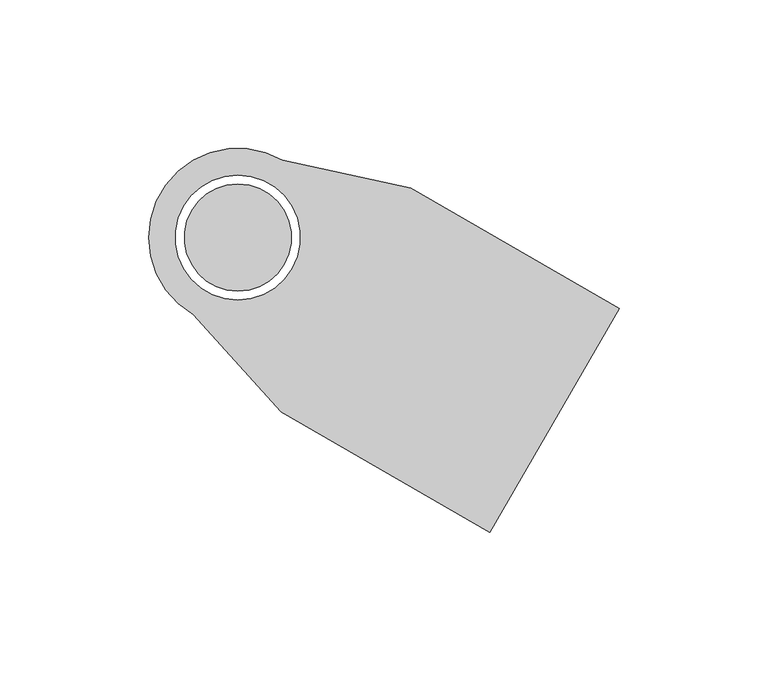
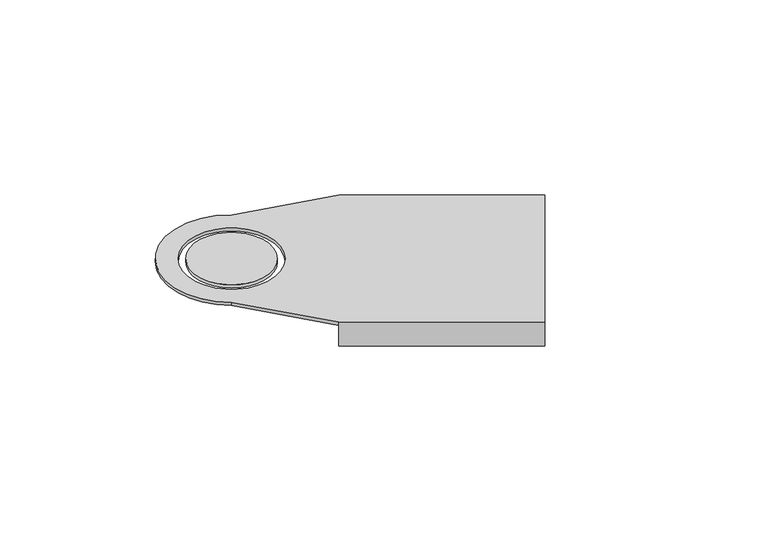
"""IFC4 building model written with IfcOpenShell, lengths in millimetres: cable carrier fitting geometry, BAKS_BEND_Articulated connector_LGP : LGP_H100."""

from ifc_helpers import new_model, si_unit, frame, origin, place, context, project, spatial, polyline, circle_curve, source, transform, mapped, element, save
from ifc_brep_helpers import plane_surface, cylinder_surface, revolved_surface, advanced_brep


def cable_carrier_fitting_3cbe9e62(model_context):
    return source(origin(), model_context, "Body", "AdvancedBrep", [
        advanced_brep(
        [(84.7711247, -99.1721051, 1.5), (128.2711247, -23.8278949, 1.5), (58.123067, 16.6721051, 1.5), (15.0, 25.9807621, 1.5), (-15.0, -25.9807621, 1.5), (14.623067, -58.6721051, 1.5), (-18.1865335, 10.5, 1.5), (18.1865335, -10.5, 1.5), (58.123067, 16.6721051, 0.0), (57.373067, 15.373067, 0.0), (127.5211247, -25.126933, 0.0), (85.5211247, -97.873067, 0.0), (15.373067, -57.373067, 0.0), (14.623067, -58.6721051, 0.0), (-15.0, -25.9807621, 0.0), (15.0, 25.9807621, 0.0), (18.1865335, -10.5, 0.0), (-18.1865335, 10.5, 0.0), (14.623067, -58.6721051, -10.0), (84.7711247, -99.1721051, -10.0), (128.2711247, -23.8278949, -10.0), (58.123067, 16.6721051, -10.0), (85.5211247, -97.873067, -10.0), (127.5211247, -25.126933, -10.0), (57.373067, 15.373067, -10.0), (15.373067, -57.373067, -10.0)],
        [
            (0, 1),
            (1, 2),
            (2, 3),
            (3, 4, circle_curve(frame((0.0, 0.0, 1.5), z_axis=(0.0, 0.0, 1.0), x_axis=(0.8660254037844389, -0.4999999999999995, 0.0)), 30.0)),
            (4, 5),
            (5, 0),
            (6, 7, circle_curve(frame((0.0, 0.0, 1.5), z_axis=(0.0, 0.0, -1.0), x_axis=(0.8660254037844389, -0.4999999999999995, 0.0)), 21.0)),
            (7, 6, circle_curve(frame((0.0, 0.0, 1.5), z_axis=(0.0, 0.0, -1.0), x_axis=(0.8660254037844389, -0.4999999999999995, 0.0)), 21.0)),
            (8, 9),
            (9, 10),
            (10, 11),
            (11, 12),
            (12, 13),
            (13, 14),
            (14, 15, circle_curve(frame((0.0, 0.0, 0.0), z_axis=(0.0, 0.0, -1.0), x_axis=(0.8660254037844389, -0.4999999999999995, 0.0)), 30.0)),
            (15, 8),
            (16, 17, circle_curve(frame((0.0, 0.0, 0.0), z_axis=(0.0, 0.0, 1.0), x_axis=(0.8660254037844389, -0.4999999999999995, 0.0)), 21.0)),
            (17, 16, circle_curve(frame((0.0, 0.0, 0.0), z_axis=(0.0, 0.0, 1.0), x_axis=(0.8660254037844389, -0.4999999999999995, 0.0)), 21.0)),
            (5, 13),
            (13, 18),
            (18, 19),
            (19, 0),
            (1, 20),
            (20, 21),
            (21, 8),
            (8, 2),
            (19, 22),
            (22, 11),
            (10, 23),
            (23, 20),
            (7, 16),
            (17, 6),
            (4, 14),
            (3, 15),
            (23, 24),
            (24, 21),
            (9, 24),
            (18, 25),
            (25, 22),
            (12, 25),
        ],
        [
            plane_surface(frame((14.623067, -58.6721051, 1.5), z_axis=(0.0, 0.0, 1.0), x_axis=(-0.8660254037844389, 0.4999999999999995, 0.0))),
            plane_surface(frame((14.623067, -58.6721051, 0.0), z_axis=(0.0, 0.0, -1.0), x_axis=(0.8660254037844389, -0.4999999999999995, 0.0))),
            plane_surface(frame((84.7711247, -99.1721051, 1.5), z_axis=(-0.4999999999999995, -0.8660254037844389, 0.0), x_axis=(0.0, 0.0, -1.0))),
            plane_surface(frame((58.123067, 16.6721051, 1.5), z_axis=(0.4999999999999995, 0.8660254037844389, 0.0), x_axis=(0.0, 0.0, -1.0))),
            plane_surface(frame((128.2711247, -23.8278949, 1.5), z_axis=(0.8660254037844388, -0.49999999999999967, 0.0), x_axis=(0.0, 0.0, -1.0))),
            revolved_surface(polyline([(18.18653347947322, -10.49999999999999, 1.5), (18.18653347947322, -10.49999999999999, 0.0)]), (0.0, 0.0, 0.0), (0.0, 0.0, 1.0)),
            plane_surface(frame((14.623067, -58.6721051, 1.5), z_axis=(-0.7410260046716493, -0.67147632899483, 0.0), x_axis=(0.0, 0.0, -1.0))),
            cylinder_surface(frame((0.0, 0.0, 0.0), z_axis=(0.0, 0.0, 1.0), x_axis=(0.8660254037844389, -0.4999999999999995, 0.0)), 30.0),
            plane_surface(frame((15.0, 25.9807621, 1.5), z_axis=(0.21100255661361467, 0.9774855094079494, 0.0), x_axis=(0.0, 0.0, -1.0))),
            plane_surface(frame((57.373067, 15.373067, -10.0), z_axis=(0.0, 0.0, -1.0), x_axis=(0.8660254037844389, -0.4999999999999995, 0.0))),
            plane_surface(frame((127.5211247, -25.126933, 0.0), z_axis=(-0.4999999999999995, -0.8660254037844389, 0.0), x_axis=(0.0, 0.0, -1.0))),
            plane_surface(frame((57.373067, 15.373067, 0.0), z_axis=(-0.8660254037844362, 0.5000000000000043, 0.0), x_axis=(0.0, 0.0, -1.0))),
            plane_surface(frame((14.623067, -58.6721051, -10.0), z_axis=(0.0, 0.0, -1.0), x_axis=(0.8660254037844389, -0.4999999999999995, 0.0))),
            plane_surface(frame((14.623067, -58.6721051, 0.0), z_axis=(-0.8660254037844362, 0.5000000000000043, 0.0), x_axis=(0.0, 0.0, -1.0))),
            plane_surface(frame((15.373067, -57.373067, 0.0), z_axis=(0.4999999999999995, 0.8660254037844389, 0.0), x_axis=(0.0, 0.0, -1.0))),
        ],
        [
            (0, [[1, 2, 3, 4, 5, 6], [7, 8]]),
            (1, [[9, 10, 11, 12, 13, 14, 15, 16], [17, 18]]),
            (2, [[19, 20, 21, 22, -6]]),
            (3, [[23, 24, 25, 26, -2]]),
            (4, [[27, 28, -11, 29, 30, -23, -1, -22]]),
            (5, [[-8, 31, -18, 32]]),
            (5, [[-17, -31, -7, -32]]),
            (6, [[33, -14, -19, -5]]),
            (7, [[34, -15, -33, -4]]),
            (8, [[-26, -16, -34, -3]]),
            (9, [[35, 36, -24, -30]]),
            (10, [[-29, -10, 37, -35]]),
            (11, [[-37, -9, -25, -36]]),
            (12, [[-21, 38, 39, -27]]),
            (13, [[-20, -13, 40, -38]]),
            (14, [[-40, -12, -28, -39]]),
        ],
    ),
        advanced_brep(
        [(-15.5884573, 9.0, 1.5), (15.5884573, -9.0, 1.5), (15.5884573, -9.0, 0.0), (-15.5884573, 9.0, 0.0)],
        [
            (0, 1, circle_curve(frame((0.0, 0.0, 1.5), z_axis=(0.0, 0.0, 1.0), x_axis=(0.8660254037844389, -0.4999999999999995, 0.0)), 18.0)),
            (1, 0, circle_curve(frame((0.0, 0.0, 1.5), z_axis=(0.0, 0.0, 1.0), x_axis=(0.8660254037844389, -0.4999999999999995, 0.0)), 18.0)),
            (2, 3, circle_curve(frame((0.0, 0.0, 0.0), z_axis=(0.0, 0.0, -1.0), x_axis=(0.8660254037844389, -0.4999999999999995, 0.0)), 18.0)),
            (3, 2, circle_curve(frame((0.0, 0.0, 0.0), z_axis=(0.0, 0.0, -1.0), x_axis=(0.8660254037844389, -0.4999999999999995, 0.0)), 18.0)),
            (1, 2),
            (3, 0),
        ],
        [
            plane_surface(frame((14.623067, -58.6721051, 1.5), z_axis=(0.0, 0.0, 1.0), x_axis=(-0.8660254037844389, 0.4999999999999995, 0.0))),
            plane_surface(frame((14.623067, -58.6721051, 0.0), z_axis=(0.0, 0.0, -1.0), x_axis=(0.8660254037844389, -0.4999999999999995, 0.0))),
            cylinder_surface(frame((0.0, 0.0, 0.0), z_axis=(0.0, 0.0, -1.0), x_axis=(0.8660254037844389, -0.4999999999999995, 0.0)), 18.0),
        ],
        [
            (0, [[1, 2]]),
            (1, [[3, 4]]),
            (2, [[-2, 5, -4, 6]]),
            (2, [[-3, -5, -1, -6]]),
        ],
    ),
    ])


if __name__ == "__main__":
    model = new_model("IFC4")
    model_context = context("Model", 3, world=origin())
    ifc_project = project(units=[si_unit("LENGTHUNIT", "METRE", prefix="MILLI")], contexts=[model_context])
    site = spatial("IfcSite", under=ifc_project)
    building = spatial("IfcBuilding", under=site)
    placement = place(None, origin())
    cable_carrier_fitting_shape = cable_carrier_fitting_3cbe9e62(model_context)
    element("IfcCableCarrierFitting", 1, ObjectType="BAKS_BEND_Articulated connector_LGP : LGP_H100", at=placement, inside=building, context=model_context, shape_type="MappedRepresentation", body=[
        mapped(cable_carrier_fitting_shape, transform((0.0, 0.0, 0.0), x_axis=(1.0, 0.0, 0.0), y_axis=(0.0, 1.0, 0.0), z_axis=(0.0, 0.0, 1.0))),
    ])
    save(model, "model.ifc")
